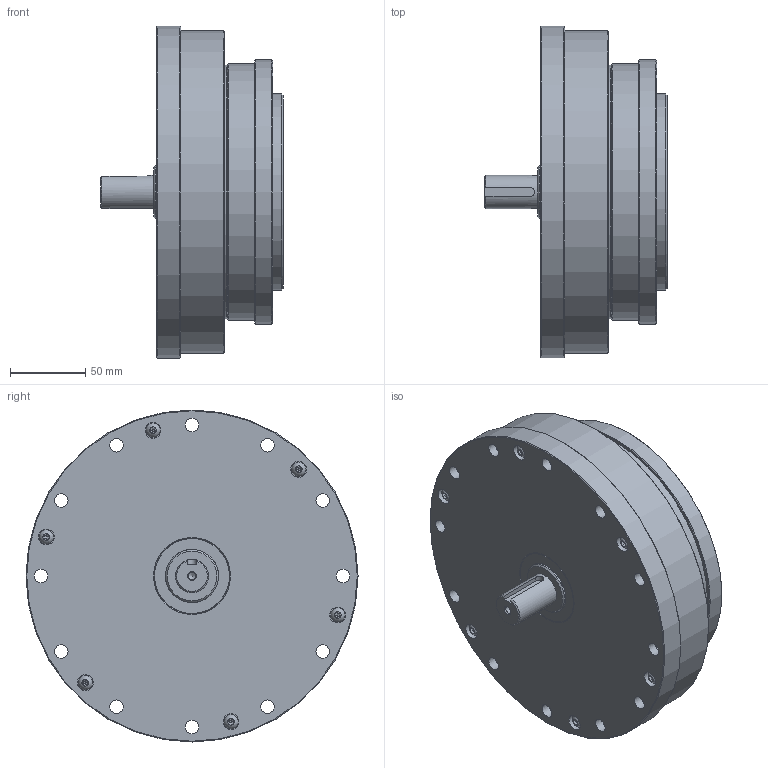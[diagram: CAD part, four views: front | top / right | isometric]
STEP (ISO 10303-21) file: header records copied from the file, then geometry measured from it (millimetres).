
FILE_DESCRIPTION (( 'STEP AP203' ), '1' );
FILE_NAME ('FHG-50-XXX-AJ.STEP', '2025-03-20T03:32:36', ( '微软用户' ), ( '微软中国' ), 'SwSTEP 2.0', 'SolidWorks 2016', '' );
FILE_SCHEMA (( 'CONFIG_CONTROL_DESIGN' ));
Length unit declared in the file: millimetre
Products named in the file (1): FHG-50-XXX-AJ
Bounding box: 121 x 220 x 220 mm (x, y, z)
Volume: 1718933.3 mm3; surface area: 643064.8 mm2
Topology: 58 solids, 58 shells, 966 faces, 2365 edges, 1558 vertices
Faces by surface type: plane 364, cylinder 322, sphere 99, cone 97, torus 84
Full cylindrical faces by diameter (mm): 2 x1, 2.5 x2, 3 x2, 4.2 x14, 5 x15, 5.5 x28, 6.8 x16, 8.5 x8, 9 x68, 10 x8, 10.5 x6, 22 x1, 25 x2, 30 x1, 31.9 x2, 32 x1, 33.995 x2, 35 x5, 35.354 x1, 38.846 x1, 39.5 x1, 40 x1, 42 x1, 42.3 x4, 45.5 x1, 46.8 x2, 47 x2, 50 x2, 50.467 x2, 52.744 x1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
Entity records: 31308 total; most frequent: CARTESIAN_POINT 10481, DIRECTION 4461, ORIENTED_EDGE 3486, AXIS2_PLACEMENT_3D 2020, EDGE_CURVE 1743, EDGE_LOOP 1733, VERTEX_POINT 1360, FACE_OUTER_BOUND 1240
